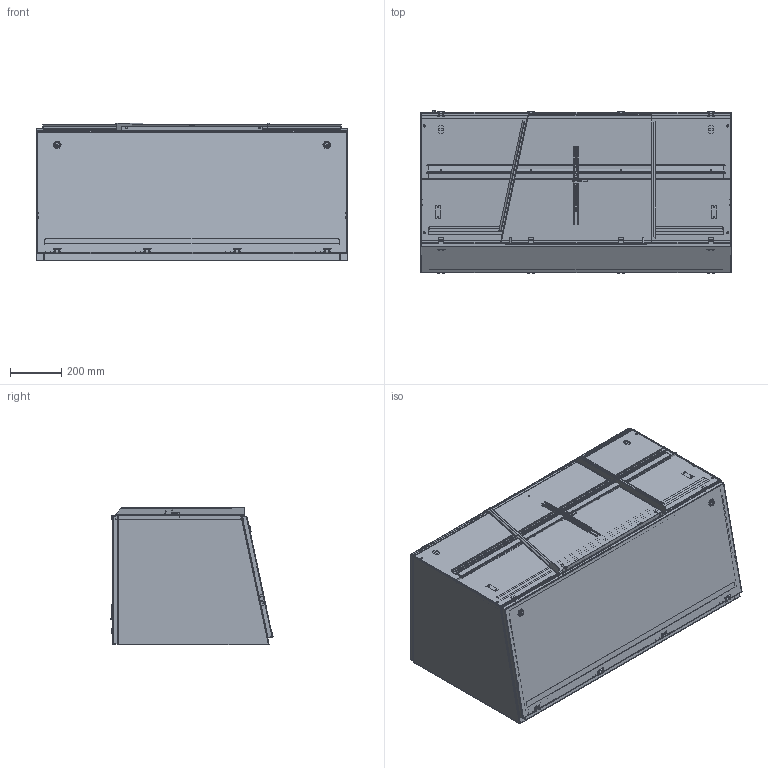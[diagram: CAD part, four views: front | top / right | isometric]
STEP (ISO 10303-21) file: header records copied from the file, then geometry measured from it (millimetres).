
FILE_DESCRIPTION( ( 'Unknown' ), '1' );
FILE_NAME( 'Q:/2000 SERIES/TURRET UNITS/WEB DRAWINGS/STEP/2CST204843.stp', 'Unknown', ( 'Unknown' ), ( 'Unknown' ), 'XStep 1.0', 'Unknown', ' ' );
FILE_SCHEMA( ( 'CONFIG_CONTROL_DESIGN' ) );
Length unit declared in the file: millimetre
Products named in the file (48): Assem1; Assem2; Assem3; Assem4; Assem5; Assem6; Assem7; Assem8; Assem9; Assem10; Assem11; Assem12; 1; 2; 3; 4; 5; 6; 7; 8; 9; 10; 11; 12; 13; 14; 15; 16; 17; 18; 19; 20; 21; 22; 23; 24; 25; 26; 27; 28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
Bounding box: 1219.2 x 634.18 x 538.94 mm (x, y, z)
Volume: 18843236 mm3; surface area: 20726952.2 mm2
Topology: 182 solids, 182 shells, 4059 faces, 9875 edges, 6324 vertices
Faces by surface type: plane 2653, cylinder 1102, bspline 232, cone 41, torus 21, sphere 10
Full cylindrical faces by diameter (mm): 3.175 x20, 4.763 x23, 4.826 x6, 5 x16, 5.537 x10, 5.969 x10, 6 x6, 6.096 x10, 6.299 x5, 6.35 x60, 7.137 x22, 7.925 x5, 7.938 x40, 8.331 x5, 9.804 x5, 9.83 x12, 9.931 x9, 10.312 x5, 11.1 x5, 12.7 x22, 12.751 x5, 13.335 x6, 15.875 x6, 16.002 x6, 19.5 x6, 19.939 x6, 25.4 x6
Entity records: 31668 total; most frequent: CARTESIAN_POINT 7721, DIRECTION 4408, ORIENTED_EDGE 4392, EDGE_CURVE 2196, LINE 1536, VECTOR 1536, VERTEX_POINT 1437, AXIS2_PLACEMENT_3D 1436
